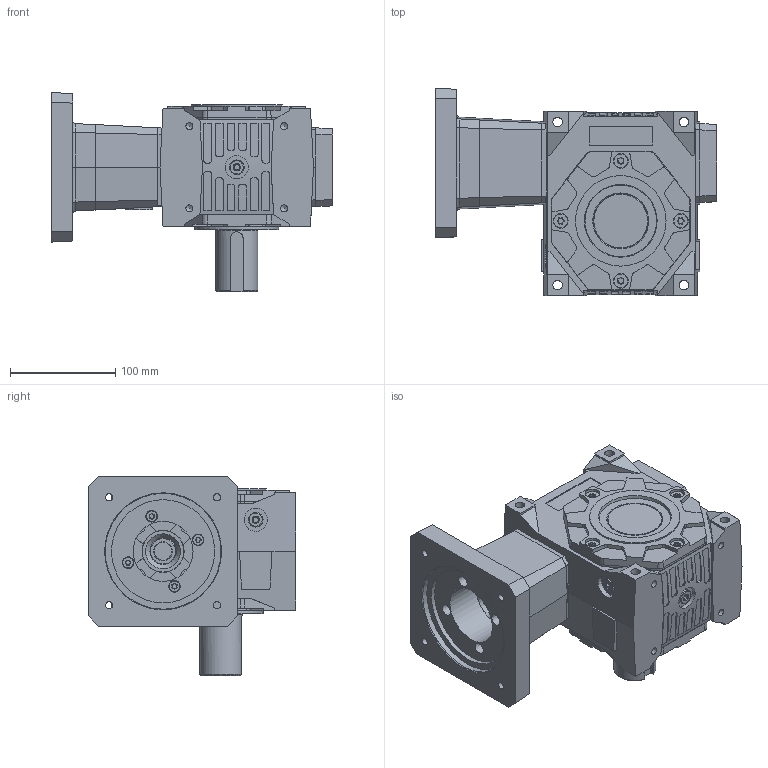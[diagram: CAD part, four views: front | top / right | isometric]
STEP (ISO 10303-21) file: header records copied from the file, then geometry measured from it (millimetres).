
FILE_DESCRIPTION( ( 'STEP AP203' ), '1' );
FILE_NAME( ' ', ' ', ( ' ' ), ( ' ' ), 'XStep 1.0', ' ', ' ' );
FILE_SCHEMA( ( 'CONFIG_CONTROL_DESIGN' ) );
Length unit declared in the file: millimetre
Products named in the file (33): 1; 2; 3; 4; 5; 6; 7; 8; 9; 10; 11; 12; 13; 14; 15; 16; 17; 18; 19; 20; 21; 22; 23; 24; 25; 26; 27; 28; 29; 30; 31; 32; 33
Bounding box: 267 x 197.05 x 189.05 mm (x, y, z)
Volume: 2130267.2 mm3; surface area: 518792.9 mm2
Topology: 33 solids, 33 shells, 1587 faces, 3950 edges, 2530 vertices
Faces by surface type: plane 715, cylinder 681, cone 115, torus 32, sphere 30, bspline 14
Full cylindrical faces by diameter (mm): 4 x8, 4.6 x8, 5 x8, 6 x8, 6.75 x56, 7 x4, 8 x24, 8.5 x4, 9 x16, 9.73 x8, 10 x4, 11 x4, 13 x12, 14 x10, 15 x4, 16 x1, 18 x2, 18.5 x2, 20 x2, 20.7 x1, 22 x4, 23.9 x1, 25 x3, 26 x1, 30 x1, 32.18 x1, 36 x1, 37.5 x1, 38.5 x1, 40 x3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
Entity records: 50160 total; most frequent: CARTESIAN_POINT 12089, DIRECTION 7946, ORIENTED_EDGE 6912, EDGE_CURVE 3456, AXIS2_PLACEMENT_3D 3109, VERTEX_POINT 2444, EDGE_LOOP 2173, FACE_OUTER_BOUND 1837
